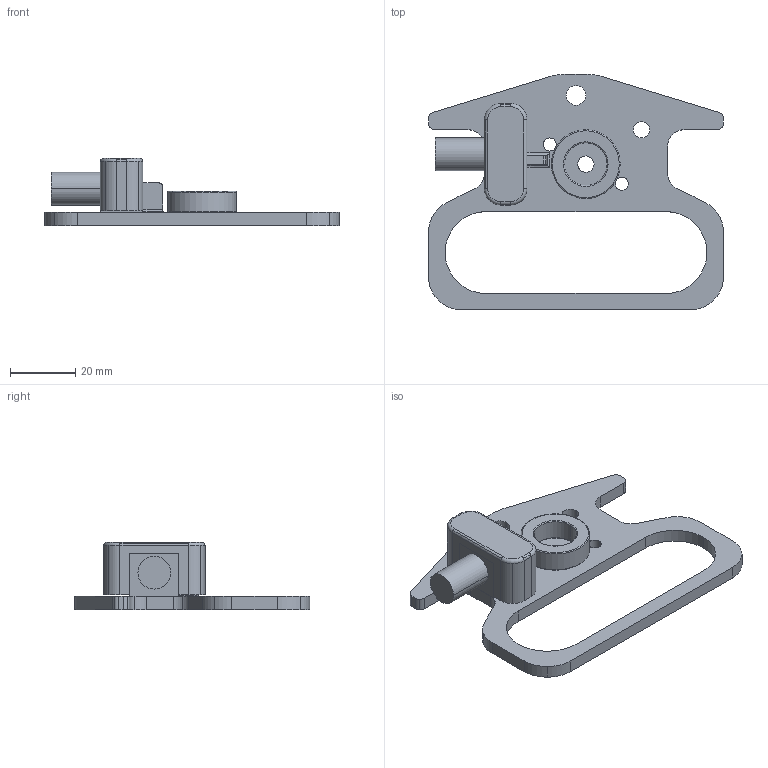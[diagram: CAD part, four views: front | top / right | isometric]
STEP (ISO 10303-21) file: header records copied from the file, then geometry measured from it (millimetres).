
FILE_DESCRIPTION(('STEP AP203'),'1');
FILE_NAME('End Fed no tune.stp','2019-09-05T20:18:34',(' '),(' '),'Spatial InterOp 3D',' ',' ');
FILE_SCHEMA(('CONFIG_CONTROL_DESIGN'));
Length unit declared in the file: metre
Products named in the file (5): End Fed no tune; PLAQUE; FT 82-43; BNC; PINCE_BNC
Assembly tree (4 placements, depth 2):
  End Fed no tune
    PLAQUE
    FT 82-43
    BNC
    PINCE_BNC
Bounding box: 90 x 72 x 20.5 mm (x, y, z)
Volume: 21860 mm3; surface area: 14050.9 mm2
Topology: 4 solids, 4 shells, 146 faces, 382 edges, 250 vertices
Faces by surface type: cylinder 88, plane 46, torus 12
Entity records: 4866 total; most frequent: DIRECTION 882, CARTESIAN_POINT 783, ORIENTED_EDGE 764, EDGE_CURVE 382, AXIS2_PLACEMENT_3D 349, VERTEX_POINT 250, CIRCLE 194, LINE 184
